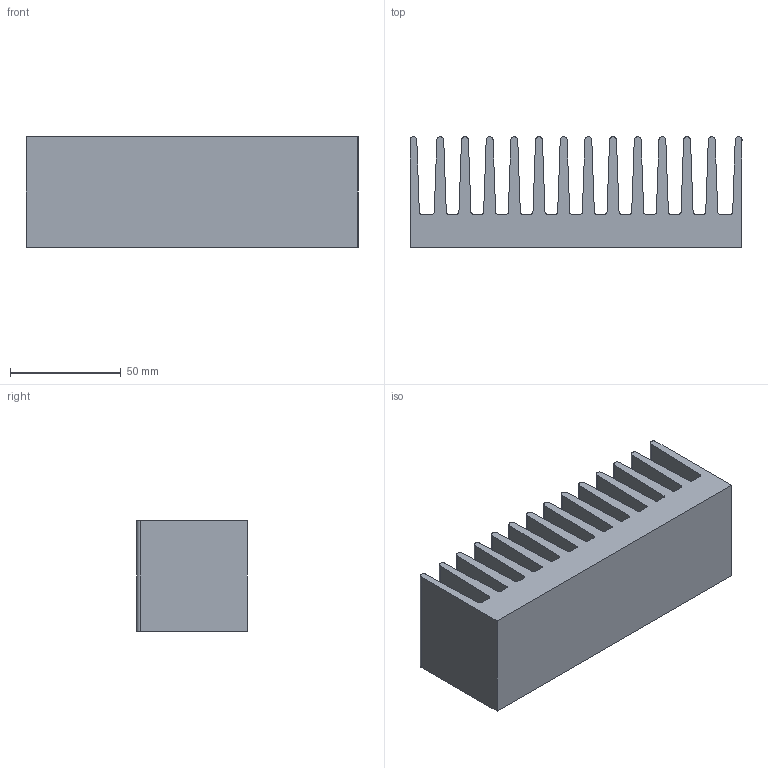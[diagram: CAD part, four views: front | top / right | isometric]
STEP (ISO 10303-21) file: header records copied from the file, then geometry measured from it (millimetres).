
FILE_DESCRIPTION (( 'STEP AP203' ), '1' );
FILE_NAME ('PR 172-50.step', '2002-10-21T08:04:05', ( 'Wolfgang Müller' ), ( 'DPS' ), 'SwSTEP 2.0', 'SolidWorks 2002264', '' );
FILE_SCHEMA (( 'CONFIG_CONTROL_DESIGN' ));
Length unit declared in the file: millimetre
Products named in the file (1): PR 172-50
Bounding box: 150 x 50 x 50 mm (x, y, z)
Volume: 213933.1 mm3; surface area: 71188.6 mm2
Topology: 1 solids, 1 shells, 84 faces, 246 edges, 164 vertices
Faces by surface type: plane 44, cylinder 40
Entity records: 2887 total; most frequent: DIRECTION 496, CARTESIAN_POINT 495, ORIENTED_EDGE 492, EDGE_CURVE 246, LINE 166, VECTOR 166, AXIS2_PLACEMENT_3D 165, VERTEX_POINT 164
